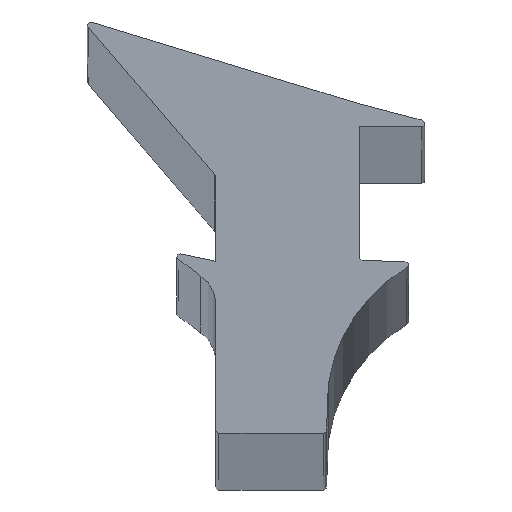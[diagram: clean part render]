
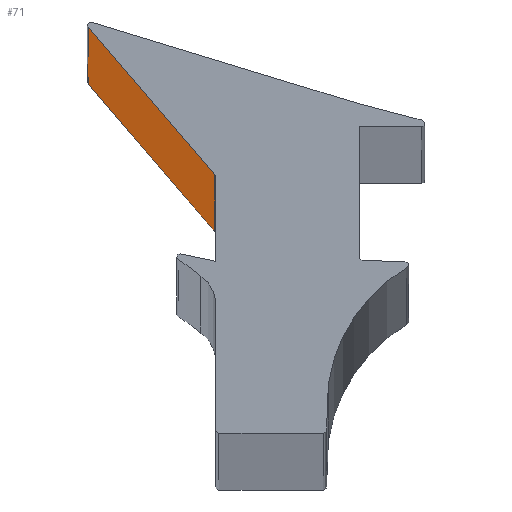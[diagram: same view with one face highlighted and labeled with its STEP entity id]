
A CAD part, top view. The second image highlights one B-rep face of the part: STEP entity #71.
In plain terms, the highlighted planar face has unit normal (-0.759, -0.651, 0).
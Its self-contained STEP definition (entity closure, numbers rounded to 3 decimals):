
#3 = CARTESIAN_POINT ( 'NONE',  ( -4.427, -1.471, -500. ) ) ;
#9 = CARTESIAN_POINT ( 'NONE',  ( -4.427, -1.471, -500. ) ) ;
#35 = LINE ( 'NONE', #551, #426 ) ;
#36 = CARTESIAN_POINT ( 'NONE',  ( -4.427, -1.471, 500. ) ) ;
#52 = CARTESIAN_POINT ( 'NONE',  ( -4.427, -1.471, 500. ) ) ;
#71 = ADVANCED_FACE ( 'NONE', ( #361 ), #417, .F. ) ;
#74 = VECTOR ( 'NONE', #495, 1000. ) ;
#90 = ORIENTED_EDGE ( 'NONE', *, *, #367, .F. ) ;
#97 = EDGE_CURVE ( 'NONE', #253, #466, #35, .T. ) ;
#148 = LINE ( 'NONE', #36, #306 ) ;
#151 = VERTEX_POINT ( 'NONE', #52 ) ;
#154 = CARTESIAN_POINT ( 'NONE',  ( -4.427, -1.471, 500. ) ) ;
#175 = AXIS2_PLACEMENT_3D ( 'NONE', #154, #734, #793 ) ;
#214 = ORIENTED_EDGE ( 'NONE', *, *, #546, .F. ) ;
#253 = VERTEX_POINT ( 'NONE', #640 ) ;
#267 = CARTESIAN_POINT ( 'NONE',  ( -8.301, 3.049, -500. ) ) ;
#277 = DIRECTION ( 'NONE',  ( 0.651, -0.759, 0. ) ) ;
#306 = VECTOR ( 'NONE', #277, 1000. ) ;
#321 = VERTEX_POINT ( 'NONE', #9 ) ;
#361 = FACE_OUTER_BOUND ( 'NONE', #459, .T. ) ;
#367 = EDGE_CURVE ( 'NONE', #253, #151, #148, .T. ) ;
#408 = DIRECTION ( 'NONE',  ( 0., 0., -1. ) ) ;
#417 = PLANE ( 'NONE',  #175 ) ;
#426 = VECTOR ( 'NONE', #408, 1000. ) ;
#459 = EDGE_LOOP ( 'NONE', ( #705, #214, #90, #497 ) ) ;
#466 = VERTEX_POINT ( 'NONE', #267 ) ;
#495 = DIRECTION ( 'NONE',  ( 0.651, -0.759, 0. ) ) ;
#497 = ORIENTED_EDGE ( 'NONE', *, *, #97, .T. ) ;
#543 = LINE ( 'NONE', #791, #591 ) ;
#546 = EDGE_CURVE ( 'NONE', #151, #321, #543, .T. ) ;
#551 = CARTESIAN_POINT ( 'NONE',  ( -8.301, 3.049, 500. ) ) ;
#557 = LINE ( 'NONE', #3, #74 ) ;
#591 = VECTOR ( 'NONE', #607, 1000. ) ;
#607 = DIRECTION ( 'NONE',  ( 0., 0., -1. ) ) ;
#640 = CARTESIAN_POINT ( 'NONE',  ( -8.301, 3.049, 500. ) ) ;
#689 = EDGE_CURVE ( 'NONE', #466, #321, #557, .T. ) ;
#705 = ORIENTED_EDGE ( 'NONE', *, *, #689, .T. ) ;
#734 = DIRECTION ( 'NONE',  ( 0.759, 0.651, 0. ) ) ;
#791 = CARTESIAN_POINT ( 'NONE',  ( -4.427, -1.471, 500. ) ) ;
#793 = DIRECTION ( 'NONE',  ( -0.651, 0.759, 0. ) ) ;
